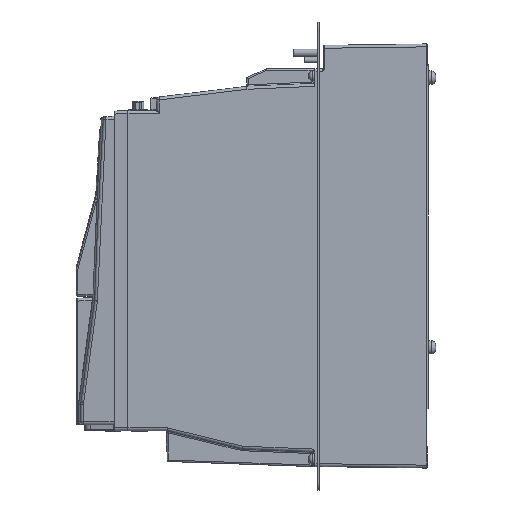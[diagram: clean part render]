
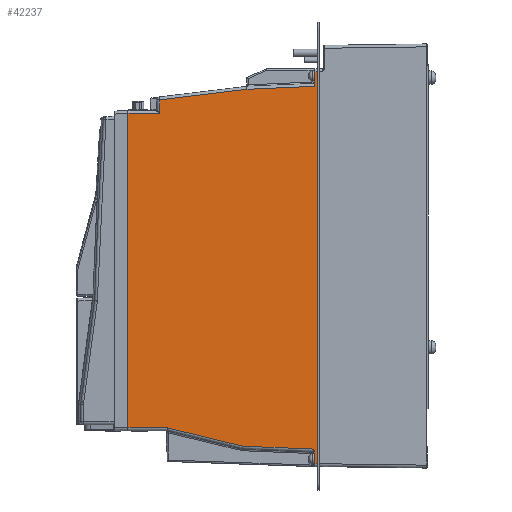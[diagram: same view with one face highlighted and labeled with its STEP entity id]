
A CAD part, left-side view. The second image highlights one B-rep face of the part: STEP entity #42237.
In plain terms, the highlighted planar face has unit normal (-1, 0, 0).
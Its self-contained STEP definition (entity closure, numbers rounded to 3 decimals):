
#662 = DIRECTION ( 'NONE',  ( 1., 0., 0. ) ) ;
#1000 = CARTESIAN_POINT ( 'NONE',  ( -64., 76.5, -278.822 ) ) ;
#1078 = CARTESIAN_POINT ( 'NONE',  ( -64., 125.725, -275.044 ) ) ;
#1423 = VECTOR ( 'NONE', #16088, 1000. ) ;
#1816 = EDGE_CURVE ( 'NONE', #19986, #4108, #7659, .T. ) ;
#2000 = ORIENTED_EDGE ( 'NONE', *, *, #34471, .T. ) ;
#3032 = CARTESIAN_POINT ( 'NONE',  ( -64., 76.5, -28.98 ) ) ;
#3197 = CARTESIAN_POINT ( 'NONE',  ( -64., 76.5, -287. ) ) ;
#3366 = VERTEX_POINT ( 'NONE', #17880 ) ;
#3832 = FACE_OUTER_BOUND ( 'NONE', #20372, .T. ) ;
#3998 = DIRECTION ( 'NONE',  ( 0., 0., -1. ) ) ;
#4108 = VERTEX_POINT ( 'NONE', #37833 ) ;
#4144 = ORIENTED_EDGE ( 'NONE', *, *, #31900, .T. ) ;
#4970 = CARTESIAN_POINT ( 'NONE',  ( -64., 77.5, -277.013 ) ) ;
#5820 = EDGE_CURVE ( 'NONE', #17601, #38075, #9688, .T. ) ;
#5980 = VERTEX_POINT ( 'NONE', #31805 ) ;
#6039 = ORIENTED_EDGE ( 'NONE', *, *, #10463, .T. ) ;
#7370 = ORIENTED_EDGE ( 'NONE', *, *, #32527, .T. ) ;
#7659 = LINE ( 'NONE', #37482, #37574 ) ;
#8060 = CARTESIAN_POINT ( 'NONE',  ( -64., 76.733, -278.099 ) ) ;
#8127 = LINE ( 'NONE', #15462, #35751 ) ;
#9421 = CARTESIAN_POINT ( 'NONE',  ( -64., 232.631, -44.384 ) ) ;
#9426 = EDGE_CURVE ( 'NONE', #38104, #5980, #46169, .T. ) ;
#9658 = EDGE_CURVE ( 'NONE', #13276, #26773, #44899, .T. ) ;
#9688 = LINE ( 'NONE', #24556, #26179 ) ;
#9726 = ORIENTED_EDGE ( 'NONE', *, *, #9658, .F. ) ;
#10097 = VERTEX_POINT ( 'NONE', #26257 ) ;
#10463 = EDGE_CURVE ( 'NONE', #45655, #34819, #8127, .T. ) ;
#10728 = VECTOR ( 'NONE', #13271, 1000. ) ;
#11028 = CARTESIAN_POINT ( 'NONE',  ( -64., 202.8, -287. ) ) ;
#11358 = VERTEX_POINT ( 'NONE', #3032 ) ;
#11524 = CARTESIAN_POINT ( 'NONE',  ( -64., 74.55, 10. ) ) ;
#12028 = DIRECTION ( 'NONE',  ( 0., -0.972, -0.236 ) ) ;
#12700 = CARTESIAN_POINT ( 'NONE',  ( -64., 77.259, -277.308 ) ) ;
#13030 = LINE ( 'NONE', #46959, #10728 ) ;
#13150 = CARTESIAN_POINT ( 'NONE',  ( -64., 202.8, -47.5 ) ) ;
#13271 = DIRECTION ( 'NONE',  ( 0., -0.999, -0.041 ) ) ;
#13276 = VERTEX_POINT ( 'NONE', #34964 ) ;
#13545 = DIRECTION ( 'NONE',  ( 0., -1., 0. ) ) ;
#15294 = CARTESIAN_POINT ( 'NONE',  ( -64., 213.846, -34.952 ) ) ;
#15462 = CARTESIAN_POINT ( 'NONE',  ( -64., 202.8, -19. ) ) ;
#15499 = ORIENTED_EDGE ( 'NONE', *, *, #9426, .T. ) ;
#15579 = ORIENTED_EDGE ( 'NONE', *, *, #21393, .T. ) ;
#15641 = CARTESIAN_POINT ( 'NONE',  ( -64., 77.016, -277.606 ) ) ;
#15877 = CARTESIAN_POINT ( 'NONE',  ( -64., 76.5, -279.014 ) ) ;
#15917 = ORIENTED_EDGE ( 'NONE', *, *, #1816, .T. ) ;
#16088 = DIRECTION ( 'NONE',  ( 0., 1., 0. ) ) ;
#16898 = DIRECTION ( 'NONE',  ( 0., 0., -1. ) ) ;
#17601 = VERTEX_POINT ( 'NONE', #20407 ) ;
#17879 = CARTESIAN_POINT ( 'NONE',  ( -64., 204.2, -47.5 ) ) ;
#17880 = CARTESIAN_POINT ( 'NONE',  ( -64., 122.835, -30.995 ) ) ;
#18060 = VECTOR ( 'NONE', #20620, 1000. ) ;
#19986 = VERTEX_POINT ( 'NONE', #33115 ) ;
#20021 = CARTESIAN_POINT ( 'NONE',  ( -64., 74.55, -19. ) ) ;
#20033 = VECTOR ( 'NONE', #22605, 1000. ) ;
#20034 = VECTOR ( 'NONE', #43791, 1000. ) ;
#20372 = EDGE_LOOP ( 'NONE', ( #34957, #25275, #7370, #15499, #34057, #41480, #25951, #6039, #2000, #4144, #15579, #15917, #44391, #9726 ) ) ;
#20407 = CARTESIAN_POINT ( 'NONE',  ( -64., 177.407, -262.5 ) ) ;
#20620 = DIRECTION ( 'NONE',  ( 0., 0.993, -0.121 ) ) ;
#20737 = VECTOR ( 'NONE', #24124, 1000. ) ;
#21393 = EDGE_CURVE ( 'NONE', #3366, #19986, #32130, .T. ) ;
#21665 = CARTESIAN_POINT ( 'NONE',  ( -64., 204.2, 0. ) ) ;
#22225 = LINE ( 'NONE', #11524, #27876 ) ;
#22396 = DIRECTION ( 'NONE',  ( 0., 0., 1. ) ) ;
#22605 = DIRECTION ( 'NONE',  ( 0., 0.999, -0.043 ) ) ;
#23210 = AXIS2_PLACEMENT_3D ( 'NONE', #37784, #662, #41217 ) ;
#23640 = LINE ( 'NONE', #13150, #1423 ) ;
#24124 = DIRECTION ( 'NONE',  ( 0., 0., -1. ) ) ;
#24556 = CARTESIAN_POINT ( 'NONE',  ( -64., 125.536, -275.09 ) ) ;
#25275 = ORIENTED_EDGE ( 'NONE', *, *, #5820, .T. ) ;
#25906 = DIRECTION ( 'NONE',  ( 0., 0., 1. ) ) ;
#25951 = ORIENTED_EDGE ( 'NONE', *, *, #30272, .T. ) ;
#26179 = VECTOR ( 'NONE', #12028, 1000. ) ;
#26257 = CARTESIAN_POINT ( 'NONE',  ( -64., 74.55, -287. ) ) ;
#26525 = PLANE ( 'NONE',  #23210 ) ;
#26773 = VERTEX_POINT ( 'NONE', #17879 ) ;
#27876 = VECTOR ( 'NONE', #25906, 1000. ) ;
#28374 = EDGE_CURVE ( 'NONE', #13276, #17601, #42426, .T. ) ;
#29316 = VECTOR ( 'NONE', #13545, 1000. ) ;
#30272 = EDGE_CURVE ( 'NONE', #10097, #45655, #22225, .T. ) ;
#30683 = EDGE_CURVE ( 'NONE', #4108, #26773, #23640, .T. ) ;
#31039 = CARTESIAN_POINT ( 'NONE',  ( -64., 76.652, -278.27 ) ) ;
#31805 = CARTESIAN_POINT ( 'NONE',  ( -64., 76.5, -279.014 ) ) ;
#31900 = EDGE_CURVE ( 'NONE', #11358, #3366, #40970, .T. ) ;
#32130 = LINE ( 'NONE', #9421, #18060 ) ;
#32527 = EDGE_CURVE ( 'NONE', #38075, #38104, #13030, .T. ) ;
#32787 = LINE ( 'NONE', #11028, #20034 ) ;
#33115 = CARTESIAN_POINT ( 'NONE',  ( -64., 182.5, -38.271 ) ) ;
#34057 = ORIENTED_EDGE ( 'NONE', *, *, #39994, .T. ) ;
#34471 = EDGE_CURVE ( 'NONE', #34819, #11358, #35489, .T. ) ;
#34819 = VERTEX_POINT ( 'NONE', #39777 ) ;
#34957 = ORIENTED_EDGE ( 'NONE', *, *, #28374, .T. ) ;
#34964 = CARTESIAN_POINT ( 'NONE',  ( -64., 204.2, -262.5 ) ) ;
#35489 = LINE ( 'NONE', #43059, #45162 ) ;
#35751 = VECTOR ( 'NONE', #37223, 1000. ) ;
#37223 = DIRECTION ( 'NONE',  ( 0., 1., 0. ) ) ;
#37482 = CARTESIAN_POINT ( 'NONE',  ( -64., 182.5, -289. ) ) ;
#37574 = VECTOR ( 'NONE', #3998, 1000. ) ;
#37784 = CARTESIAN_POINT ( 'NONE',  ( -64., 202.8, -289. ) ) ;
#37833 = CARTESIAN_POINT ( 'NONE',  ( -64., 182.5, -47.5 ) ) ;
#37882 = CARTESIAN_POINT ( 'NONE',  ( -64., 76.535, -278.634 ) ) ;
#38075 = VERTEX_POINT ( 'NONE', #1078 ) ;
#38104 = VERTEX_POINT ( 'NONE', #4970 ) ;
#38521 = CARTESIAN_POINT ( 'NONE',  ( -64., 202.8, -262.5 ) ) ;
#39777 = CARTESIAN_POINT ( 'NONE',  ( -64., 76.5, -19. ) ) ;
#39994 = EDGE_CURVE ( 'NONE', #5980, #40217, #46361, .T. ) ;
#40217 = VERTEX_POINT ( 'NONE', #3197 ) ;
#40970 = LINE ( 'NONE', #15294, #20033 ) ;
#41140 = VECTOR ( 'NONE', #22396, 1000. ) ;
#41217 = DIRECTION ( 'NONE',  ( 0., 0., -1. ) ) ;
#41480 = ORIENTED_EDGE ( 'NONE', *, *, #42872, .T. ) ;
#42237 = ADVANCED_FACE ( 'NONE', ( #3832 ), #26525, .F. ) ;
#42426 = LINE ( 'NONE', #38521, #29316 ) ;
#42739 = CARTESIAN_POINT ( 'NONE',  ( -64., 76.5, -289. ) ) ;
#42872 = EDGE_CURVE ( 'NONE', #40217, #10097, #32787, .T. ) ;
#43059 = CARTESIAN_POINT ( 'NONE',  ( -64., 76.5, -289. ) ) ;
#43791 = DIRECTION ( 'NONE',  ( 0., -1., 0. ) ) ;
#44391 = ORIENTED_EDGE ( 'NONE', *, *, #30683, .T. ) ;
#44899 = LINE ( 'NONE', #21665, #41140 ) ;
#45162 = VECTOR ( 'NONE', #16898, 1000. ) ;
#45655 = VERTEX_POINT ( 'NONE', #20021 ) ;
#46157 = CARTESIAN_POINT ( 'NONE',  ( -64., 77.5, -277.013 ) ) ;
#46169 = B_SPLINE_CURVE_WITH_KNOTS ( 'NONE', 3,
 ( #46157, #12700, #15641, #8060, #31039, #37882, #1000, #15877 ),
 .UNSPECIFIED., .F., .F.,
 ( 4, 2, 2, 4 ),
 ( 0., 0.001, 0.002, 0.002 ),
 .UNSPECIFIED. ) ;
#46361 = LINE ( 'NONE', #42739, #20737 ) ;
#46959 = CARTESIAN_POINT ( 'NONE',  ( -64., 76.92, -277.036 ) ) ;
